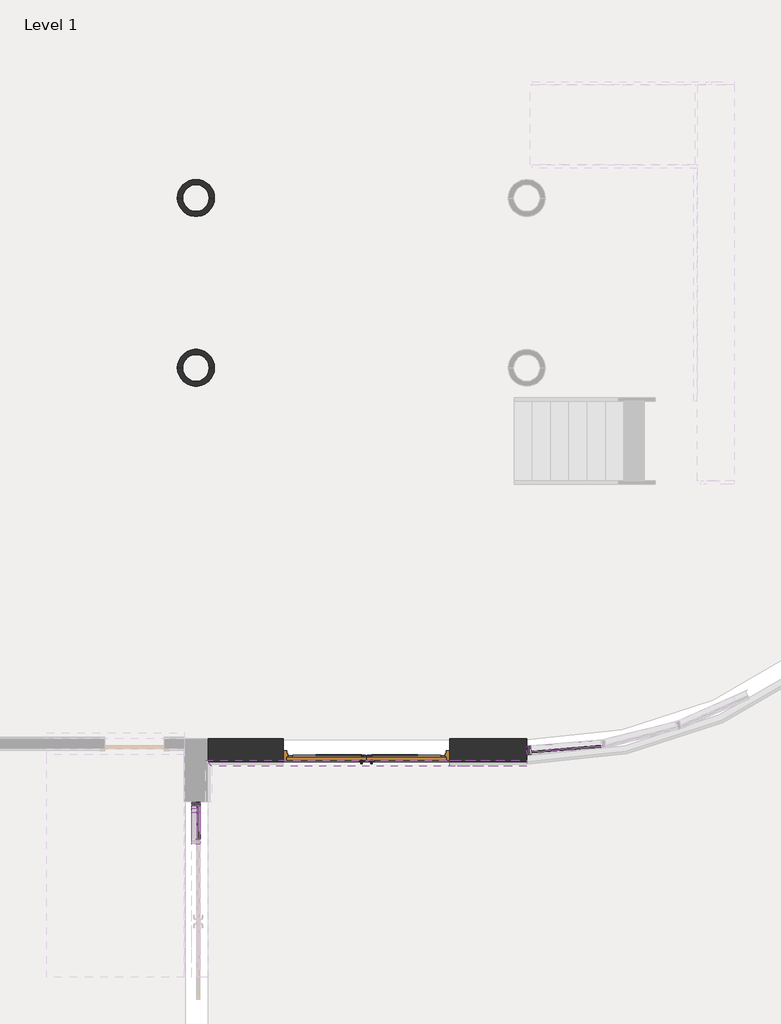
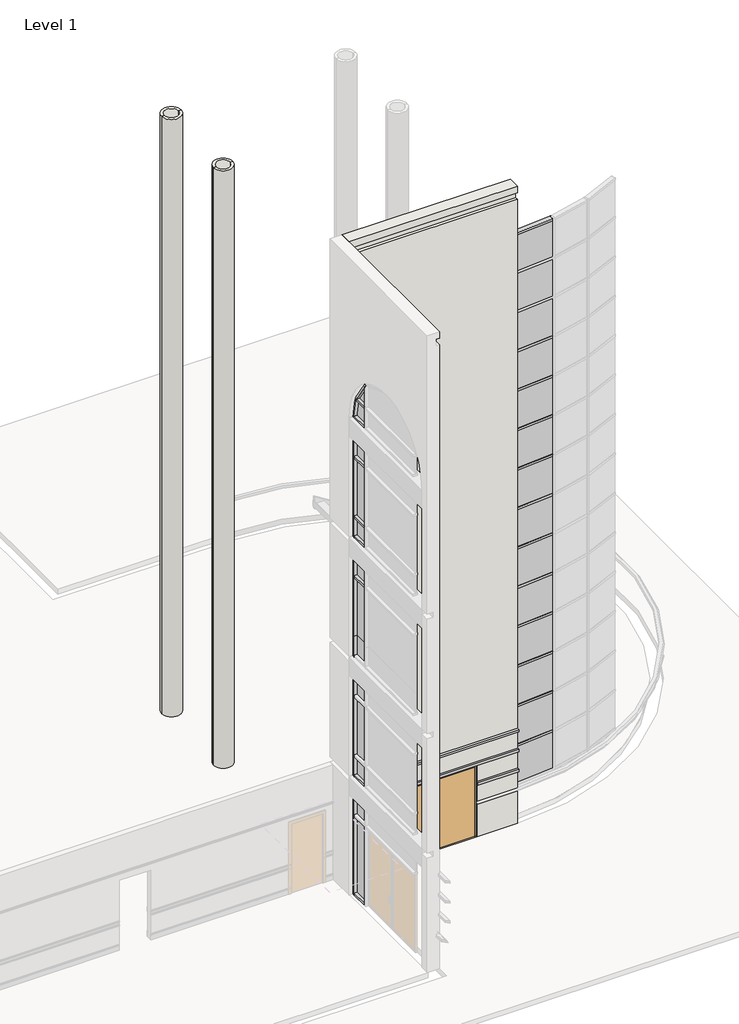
# One storey, part 4 of 20: 50 members, 27 plates, 5 walls, 3 proxies, 1 door.
"""IFC4 building model written with IfcOpenShell, lengths in millimetres."""

from ifc_helpers import new_model, si_unit, point, frame, frame_2d, origin, origin_with_axes, place, context, project, spatial, polyline, circle_curve, trimmed, segment, composite_curve, outline, extrude, faceted_brep, transform, mapped, element, save
from components import door_381a2cf9, member_6fd4d727, member_2e3765b8, member_e2a7e38a, member_ee409385, member_47a645d3, member_53d1b195, member_b7f7ac7a, member_94fbf6e3, member_aaa03826, member_dad99500, member_2fae0574, member_0b7646a3, system_panel_glazed_e4675ec4, system_panel_glazed_b699a21d, system_panel_glazed_302a988a, system_panel_glazed_4c725cf6, system_panel_glazed_f9269b4e, system_panel_glazed_1e7caf01, system_panel_glazed_6cb61a0e, system_panel_glazed_2dcc93e6, system_panel_glazed_8fb97314

model = new_model("IFC4")

# Units and contexts
model_context = context("Model", 3, world=origin())
ifc_project = project(units=[si_unit("LENGTHUNIT", "METRE", prefix="MILLI")], contexts=[model_context])

# Site, building, storey
site = spatial("IfcSite", under=ifc_project)
building = spatial("IfcBuilding", under=site)
storey = spatial("IfcBuildingStorey", under=building, Name="Level 1", Elevation=0.0)

# Proxies
placement = place(None, origin())
element("IfcBuildingElementProxy", 1, Name="Reveals", at=placement, inside=storey, context=model_context, shape_type="SweptSolid", body=[
    extrude(outline(polyline([(13127.8089721, -9887.6851681), (13035.7339721, -9795.6101681), (14220.0089721, -9795.6101681), (14220.0089721, -9887.6851681), (13127.8089721, -9887.6851681)])), frame((0.0, 0.0, 1625.6), z_axis=(0.0, 0.0, 1.0), x_axis=(1.0, 0.0, 0.0)), (0.0, 0.0, 1.0), 67.7333333),
    extrude(outline(polyline([(16760.0089721, -9887.6851681), (16760.0089721, -9795.6101681), (17937.9339721, -9795.6101681), (17937.9339721, -9887.6851681), (16760.0089721, -9887.6851681)])), frame((0.0, 0.0, 1625.6), z_axis=(0.0, 0.0, 1.0), x_axis=(1.0, 0.0, 0.0)), (0.0, 0.0, 1.0), 67.7333333),
])
element("IfcBuildingElementProxy", 2, Name="Reveals", at=placement, inside=storey, context=model_context, shape_type="SweptSolid", body=[
    extrude(outline(polyline([(13127.8089721, -9887.6851681), (13035.7339721, -9795.6101681), (17937.9339721, -9795.6101681), (17937.9339721, -9887.6851681), (13127.8089721, -9887.6851681)])), frame((0.0, 0.0, 2235.2), z_axis=(0.0, 0.0, 1.0), x_axis=(1.0, 0.0, 0.0)), (0.0, 0.0, 1.0), 67.7333333),
])
element("IfcBuildingElementProxy", 3, Name="Reveals", at=placement, inside=storey, context=model_context, shape_type="SweptSolid", body=[
    extrude(outline(polyline([(13127.8089721, -9887.6851681), (13035.7339721, -9795.6101681), (17937.9339721, -9795.6101681), (17937.9339721, -9887.6851681), (13127.8089721, -9887.6851681)])), frame((0.0, 0.0, 2844.8), z_axis=(0.0, 0.0, 1.0), x_axis=(1.0, 0.0, 0.0)), (0.0, 0.0, 1.0), 67.7333333),
])

# Door
door_shape = door_381a2cf9(model_context)
element("IfcDoor", 4, ObjectType="Door-Exterior-Double : 96\" x 84\"", at=placement, inside=storey, context=model_context, shape_type="MappedRepresentation", body=[
    mapped(door_shape, transform((15490.0089721, -9638.4476681, 0.0), x_axis=(1.0, 0.0, 0.0), y_axis=(0.0, 1.0, 0.0), z_axis=(0.0, 0.0, 1.0))),
])

# Members
member_shape = member_6fd4d727(model_context)
element("IfcMember", 5, ObjectType="Rectangular Mullion : 2.5\" x 5\" rectangular", at=placement, inside=storey, context=model_context, shape_type="MappedRepresentation", body=[
    mapped(member_shape, transform((18001.2170874, -9639.5538796, 17983.2), x_axis=(0.0, 0.0, 1.0), y_axis=(-0.08257934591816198, 0.9965844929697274, 0.0), z_axis=(-0.9965844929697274, -0.08257934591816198, 0.0))),
])
member_2_shape = member_2e3765b8(model_context)
element("IfcMember", 6, ObjectType="Rectangular Mullion : 2.5\" x 5\" rectangular", at=placement, inside=storey, context=model_context, shape_type="MappedRepresentation", body=[
    mapped(member_2_shape, transform((18001.2170874, -9639.5538796, 2298.7), x_axis=(0.0, 0.0, 1.0), y_axis=(-0.08257934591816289, 0.9965844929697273, 0.0), z_axis=(-0.9965844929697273, -0.08257934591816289, 0.0))),
])
element("IfcMember", 7, ObjectType="Rectangular Mullion : 2.5\" x 5\" rectangular", at=placement, inside=storey, context=model_context, shape_type="MappedRepresentation", body=[
    mapped(member_2_shape, transform((18001.2170874, -9639.5538796, 3505.2), x_axis=(0.0, 0.0, 1.0), y_axis=(-0.08257934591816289, 0.9965844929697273, 0.0), z_axis=(-0.9965844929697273, -0.08257934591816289, 0.0))),
])
element("IfcMember", 8, ObjectType="Rectangular Mullion : 2.5\" x 5\" rectangular", at=placement, inside=storey, context=model_context, shape_type="MappedRepresentation", body=[
    mapped(member_2_shape, transform((18001.2170874, -9639.5538796, 4711.7), x_axis=(0.0, 0.0, 1.0), y_axis=(-0.08257934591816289, 0.9965844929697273, 0.0), z_axis=(-0.9965844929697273, -0.08257934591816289, 0.0))),
])
element("IfcMember", 9, ObjectType="Rectangular Mullion : 2.5\" x 5\" rectangular", at=placement, inside=storey, context=model_context, shape_type="MappedRepresentation", body=[
    mapped(member_2_shape, transform((18001.2170874, -9639.5538796, 5918.2), x_axis=(0.0, 0.0, 1.0), y_axis=(-0.08257934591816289, 0.9965844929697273, 0.0), z_axis=(-0.9965844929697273, -0.08257934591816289, 0.0))),
])
element("IfcMember", 10, ObjectType="Rectangular Mullion : 2.5\" x 5\" rectangular", at=placement, inside=storey, context=model_context, shape_type="MappedRepresentation", body=[
    mapped(member_2_shape, transform((18001.2170874, -9639.5538796, 7124.7), x_axis=(0.0, 0.0, 1.0), y_axis=(-0.08257934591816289, 0.9965844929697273, 0.0), z_axis=(-0.9965844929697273, -0.08257934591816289, 0.0))),
])
element("IfcMember", 11, ObjectType="Rectangular Mullion : 2.5\" x 5\" rectangular", at=placement, inside=storey, context=model_context, shape_type="MappedRepresentation", body=[
    mapped(member_2_shape, transform((18001.2170874, -9639.5538796, 8331.2), x_axis=(0.0, 0.0, 1.0), y_axis=(-0.08257934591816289, 0.9965844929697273, 0.0), z_axis=(-0.9965844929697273, -0.08257934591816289, 0.0))),
])
element("IfcMember", 12, ObjectType="Rectangular Mullion : 2.5\" x 5\" rectangular", at=placement, inside=storey, context=model_context, shape_type="MappedRepresentation", body=[
    mapped(member_2_shape, transform((18001.2170874, -9639.5538796, 9537.7), x_axis=(0.0, 0.0, 1.0), y_axis=(-0.08257934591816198, 0.9965844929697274, 0.0), z_axis=(-0.9965844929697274, -0.08257934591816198, 0.0))),
])
element("IfcMember", 13, ObjectType="Rectangular Mullion : 2.5\" x 5\" rectangular", at=placement, inside=storey, context=model_context, shape_type="MappedRepresentation", body=[
    mapped(member_2_shape, transform((18001.2170874, -9639.5538796, 10744.2), x_axis=(0.0, 0.0, 1.0), y_axis=(-0.08257934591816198, 0.9965844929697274, 0.0), z_axis=(-0.9965844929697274, -0.08257934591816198, 0.0))),
])
element("IfcMember", 14, ObjectType="Rectangular Mullion : 2.5\" x 5\" rectangular", at=placement, inside=storey, context=model_context, shape_type="MappedRepresentation", body=[
    mapped(member_2_shape, transform((18001.2170874, -9639.5538796, 11950.7), x_axis=(0.0, 0.0, 1.0), y_axis=(-0.08257934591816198, 0.9965844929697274, 0.0), z_axis=(-0.9965844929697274, -0.08257934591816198, 0.0))),
])
element("IfcMember", 15, ObjectType="Rectangular Mullion : 2.5\" x 5\" rectangular", at=placement, inside=storey, context=model_context, shape_type="MappedRepresentation", body=[
    mapped(member_2_shape, transform((18001.2170874, -9639.5538796, 13157.2), x_axis=(0.0, 0.0, 1.0), y_axis=(-0.08257934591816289, 0.9965844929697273, 0.0), z_axis=(-0.9965844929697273, -0.08257934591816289, 0.0))),
])
element("IfcMember", 16, ObjectType="Rectangular Mullion : 2.5\" x 5\" rectangular", at=placement, inside=storey, context=model_context, shape_type="MappedRepresentation", body=[
    mapped(member_2_shape, transform((18001.2170874, -9639.5538796, 14363.7), x_axis=(0.0, 0.0, 1.0), y_axis=(-0.08257934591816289, 0.9965844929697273, 0.0), z_axis=(-0.9965844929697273, -0.08257934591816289, 0.0))),
])
member_3_shape = member_e2a7e38a(model_context)
element("IfcMember", 17, ObjectType="Rectangular Mullion : 2.5\" x 5\" rectangular", at=placement, inside=storey, context=model_context, shape_type="MappedRepresentation", body=[
    mapped(member_3_shape, transform((17937.9339721, -9644.7976681, 1092.2), x_axis=(-0.9965844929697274, -0.08257934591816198, 0.0), y_axis=(-0.08257934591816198, 0.9965844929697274, 0.0), z_axis=(0.0, 0.0, -1.0))),
])
element("IfcMember", 18, ObjectType="Rectangular Mullion : 2.5\" x 5\" rectangular", at=placement, inside=storey, context=model_context, shape_type="MappedRepresentation", body=[
    mapped(member_3_shape, transform((17937.9339721, -9644.7976681, 2298.7), x_axis=(-0.9965844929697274, -0.08257934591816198, 0.0), y_axis=(-0.08257934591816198, 0.9965844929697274, 0.0), z_axis=(0.0, 0.0, -1.0))),
])
element("IfcMember", 19, ObjectType="Rectangular Mullion : 2.5\" x 5\" rectangular", at=placement, inside=storey, context=model_context, shape_type="MappedRepresentation", body=[
    mapped(member_3_shape, transform((17937.9339721, -9644.7976681, 3505.2), x_axis=(-0.9965844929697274, -0.08257934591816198, 0.0), y_axis=(-0.08257934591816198, 0.9965844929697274, 0.0), z_axis=(0.0, 0.0, -1.0))),
])
element("IfcMember", 20, ObjectType="Rectangular Mullion : 2.5\" x 5\" rectangular", at=placement, inside=storey, context=model_context, shape_type="MappedRepresentation", body=[
    mapped(member_3_shape, transform((17937.9339721, -9644.7976681, 4711.7), x_axis=(-0.9965844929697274, -0.08257934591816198, 0.0), y_axis=(-0.08257934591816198, 0.9965844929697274, 0.0), z_axis=(0.0, 0.0, -1.0))),
])
element("IfcMember", 21, ObjectType="Rectangular Mullion : 2.5\" x 5\" rectangular", at=placement, inside=storey, context=model_context, shape_type="MappedRepresentation", body=[
    mapped(member_3_shape, transform((17937.9339721, -9644.7976681, 5918.2), x_axis=(-0.9965844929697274, -0.08257934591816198, 0.0), y_axis=(-0.08257934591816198, 0.9965844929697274, 0.0), z_axis=(0.0, 0.0, -1.0))),
])
element("IfcMember", 22, ObjectType="Rectangular Mullion : 2.5\" x 5\" rectangular", at=placement, inside=storey, context=model_context, shape_type="MappedRepresentation", body=[
    mapped(member_3_shape, transform((17937.9339721, -9644.7976681, 7124.7), x_axis=(-0.9965844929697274, -0.08257934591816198, 0.0), y_axis=(-0.08257934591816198, 0.9965844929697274, 0.0), z_axis=(0.0, 0.0, -1.0))),
])
element("IfcMember", 23, ObjectType="Rectangular Mullion : 2.5\" x 5\" rectangular", at=placement, inside=storey, context=model_context, shape_type="MappedRepresentation", body=[
    mapped(member_3_shape, transform((17937.9339721, -9644.7976681, 8331.2), x_axis=(-0.9965844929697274, -0.08257934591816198, 0.0), y_axis=(-0.08257934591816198, 0.9965844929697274, 0.0), z_axis=(0.0, 0.0, -1.0))),
])
element("IfcMember", 24, ObjectType="Rectangular Mullion : 2.5\" x 5\" rectangular", at=placement, inside=storey, context=model_context, shape_type="MappedRepresentation", body=[
    mapped(member_3_shape, transform((17937.9339721, -9644.7976681, 9537.7), x_axis=(-0.9965844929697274, -0.08257934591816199, 0.0), y_axis=(-0.08257934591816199, 0.9965844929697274, 0.0), z_axis=(0.0, 0.0, -1.0))),
])
element("IfcMember", 25, ObjectType="Rectangular Mullion : 2.5\" x 5\" rectangular", at=placement, inside=storey, context=model_context, shape_type="MappedRepresentation", body=[
    mapped(member_3_shape, transform((17937.9339721, -9644.7976681, 10744.2), x_axis=(-0.9965844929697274, -0.08257934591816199, 0.0), y_axis=(-0.08257934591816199, 0.9965844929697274, 0.0), z_axis=(0.0, 0.0, -1.0))),
])
element("IfcMember", 26, ObjectType="Rectangular Mullion : 2.5\" x 5\" rectangular", at=placement, inside=storey, context=model_context, shape_type="MappedRepresentation", body=[
    mapped(member_3_shape, transform((17937.9339721, -9644.7976681, 11950.7), x_axis=(-0.9965844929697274, -0.08257934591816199, 0.0), y_axis=(-0.08257934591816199, 0.9965844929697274, 0.0), z_axis=(0.0, 0.0, -1.0))),
])
element("IfcMember", 27, ObjectType="Rectangular Mullion : 2.5\" x 5\" rectangular", at=placement, inside=storey, context=model_context, shape_type="MappedRepresentation", body=[
    mapped(member_3_shape, transform((17937.9339721, -9644.7976681, 13157.2), x_axis=(-0.9965844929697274, -0.08257934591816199, 0.0), y_axis=(-0.08257934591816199, 0.9965844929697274, 0.0), z_axis=(0.0, 0.0, -1.0))),
])
element("IfcMember", 28, ObjectType="Rectangular Mullion : 2.5\" x 5\" rectangular", at=placement, inside=storey, context=model_context, shape_type="MappedRepresentation", body=[
    mapped(member_3_shape, transform((17937.9339721, -9644.7976681, 14363.7), x_axis=(-0.9965844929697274, -0.08257934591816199, 0.0), y_axis=(-0.08257934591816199, 0.9965844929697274, 0.0), z_axis=(0.0, 0.0, -1.0))),
])
element("IfcMember", 29, ObjectType="Rectangular Mullion : 2.5\" x 5\" rectangular", at=placement, inside=storey, context=model_context, shape_type="MappedRepresentation", body=[
    mapped(member_3_shape, transform((17937.9339721, -9644.7976681, 15570.2), x_axis=(-0.9965844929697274, -0.08257934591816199, 0.0), y_axis=(-0.08257934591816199, 0.9965844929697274, 0.0), z_axis=(0.0, 0.0, -1.0))),
])
element("IfcMember", 30, ObjectType="Rectangular Mullion : 2.5\" x 5\" rectangular", at=placement, inside=storey, context=model_context, shape_type="MappedRepresentation", body=[
    mapped(member_3_shape, transform((17937.9339721, -9644.7976681, 16776.7), x_axis=(-0.9965844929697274, -0.08257934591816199, 0.0), y_axis=(-0.08257934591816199, 0.9965844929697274, 0.0), z_axis=(0.0, 0.0, -1.0))),
])
member_4_shape = member_ee409385(model_context)
element("IfcMember", 31, ObjectType="Rectangular Mullion : 2.5\" x 5\" rectangular", at=placement, inside=storey, context=model_context, shape_type="MappedRepresentation", body=[
    mapped(member_4_shape, transform((12884.9214721, -10430.6101681, 2438.4), x_axis=(0.0, 1.0, 0.0), y_axis=(-1.0, 0.0, 0.0), z_axis=(0.0, 0.0, 1.0))),
])
member_5_shape = member_47a645d3(model_context)
element("IfcMember", 32, ObjectType="Rectangular Mullion : 2.5\" x 5\" rectangular", at=placement, inside=storey, context=model_context, shape_type="MappedRepresentation", body=[
    mapped(member_5_shape, transform((12884.9214721, -11008.4601681, 14630.4), x_axis=(0.0, 0.0, 1.0), y_axis=(-1.0, 0.0, 0.0), z_axis=(0.0, -1.0, 0.0))),
])
member_6_shape = member_53d1b195(model_context)
element("IfcMember", 33, ObjectType="Rectangular Mullion : 2.5\" x 5\" rectangular", at=placement, inside=storey, context=model_context, shape_type="MappedRepresentation", body=[
    mapped(member_6_shape, transform((12884.9214721, -11008.4601681, 15240.0), x_axis=(0.0, 0.0, 1.0), y_axis=(-1.0, 0.0, 0.0), z_axis=(0.0, -1.0, 0.0))),
])
member_7_shape = member_b7f7ac7a(model_context)
element("IfcMember", 34, ObjectType="Rectangular Mullion : 2.5\" x 5\" rectangular", at=placement, inside=storey, context=model_context, shape_type="MappedRepresentation", body=[
    mapped(member_7_shape, transform((12884.9214721, -10535.2009928, 15240.0), x_axis=(0.0, 0.9428090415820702, 0.33333333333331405), y_axis=(-1.0, 0.0, 0.0), z_axis=(0.0, -0.333333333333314, 0.9428090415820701))),
])
member_8_shape = member_94fbf6e3(model_context)
element("IfcMember", 35, ObjectType="Rectangular Mullion : 2.5\" x 5\" rectangular", at=placement, inside=storey, context=model_context, shape_type="MappedRepresentation", body=[
    mapped(member_8_shape, transform((12884.9214721, -11040.2101681, 15993.5070391), x_axis=(0.0, 0.6666666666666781, 0.7453559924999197), y_axis=(-1.0, 0.0, 0.0), z_axis=(0.0, -0.7453559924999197, 0.6666666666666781))),
])
member_9_shape = member_aaa03826(model_context)
element("IfcMember", 36, ObjectType="Rectangular Mullion : 2.5\" x 5\" rectangular", at=placement, inside=storey, context=model_context, shape_type="MappedRepresentation", body=[
    mapped(member_9_shape, transform((12884.9214721, -11008.4601681, 3657.6), x_axis=(0.0, 0.0, 1.0), y_axis=(-1.0, 0.0, 0.0), z_axis=(0.0, -1.0, 0.0))),
])
element("IfcMember", 37, ObjectType="Rectangular Mullion : 2.5\" x 5\" rectangular", at=placement, inside=storey, context=model_context, shape_type="MappedRepresentation", body=[
    mapped(member_9_shape, transform((12884.9214721, -11008.4601681, 3048.0), x_axis=(0.0, 0.0, 1.0), y_axis=(-1.0, 0.0, 0.0), z_axis=(0.0, -1.0, 0.0))),
])
element("IfcMember", 38, ObjectType="Rectangular Mullion : 2.5\" x 5\" rectangular", at=placement, inside=storey, context=model_context, shape_type="MappedRepresentation", body=[
    mapped(member_9_shape, transform((12884.9214721, -11008.4601681, 9753.6), x_axis=(0.0, 0.0, 1.0), y_axis=(-1.0, 0.0, 0.0), z_axis=(0.0, -1.0, 0.0))),
])
element("IfcMember", 39, ObjectType="Rectangular Mullion : 2.5\" x 5\" rectangular", at=placement, inside=storey, context=model_context, shape_type="MappedRepresentation", body=[
    mapped(member_9_shape, transform((12884.9214721, -11008.4601681, 10363.2), x_axis=(0.0, 0.0, 1.0), y_axis=(-1.0, 0.0, 0.0), z_axis=(0.0, -1.0, 0.0))),
])
element("IfcMember", 40, ObjectType="Rectangular Mullion : 2.5\" x 5\" rectangular", at=placement, inside=storey, context=model_context, shape_type="MappedRepresentation", body=[
    mapped(member_9_shape, transform((12884.9214721, -11008.4601681, 10972.8), x_axis=(0.0, 0.0, 1.0), y_axis=(-1.0, 0.0, 0.0), z_axis=(0.0, -1.0, 0.0))),
])
element("IfcMember", 41, ObjectType="Rectangular Mullion : 2.5\" x 5\" rectangular", at=placement, inside=storey, context=model_context, shape_type="MappedRepresentation", body=[
    mapped(member_9_shape, transform((12884.9214721, -11008.4601681, 11582.4), x_axis=(0.0, 0.0, 1.0), y_axis=(-1.0, 0.0, 0.0), z_axis=(0.0, -1.0, 0.0))),
])
element("IfcMember", 42, ObjectType="Rectangular Mullion : 2.5\" x 5\" rectangular", at=placement, inside=storey, context=model_context, shape_type="MappedRepresentation", body=[
    mapped(member_9_shape, transform((12884.9214721, -11008.4601681, 13411.2), x_axis=(0.0, 0.0, 1.0), y_axis=(-1.0, 0.0, 0.0), z_axis=(0.0, -1.0, 0.0))),
])
element("IfcMember", 43, ObjectType="Rectangular Mullion : 2.5\" x 5\" rectangular", at=placement, inside=storey, context=model_context, shape_type="MappedRepresentation", body=[
    mapped(member_9_shape, transform((12884.9214721, -11008.4601681, 14020.8), x_axis=(0.0, 0.0, 1.0), y_axis=(-1.0, 0.0, 0.0), z_axis=(0.0, -1.0, 0.0))),
])
member_10_shape = member_dad99500(model_context)
element("IfcMember", 44, ObjectType="Rectangular Mullion : 2.5\" x 5\" rectangular", at=placement, inside=storey, context=model_context, shape_type="MappedRepresentation", body=[
    mapped(member_10_shape, transform((12884.9214721, -10430.6101681, 11582.4), x_axis=(0.0, 1.0, 0.0), y_axis=(-1.0, 0.0, 0.0), z_axis=(0.0, 0.0, 1.0))),
])
element("IfcMember", 45, ObjectType="Rectangular Mullion : 2.5\" x 5\" rectangular", at=placement, inside=storey, context=model_context, shape_type="MappedRepresentation", body=[
    mapped(member_10_shape, transform((12884.9214721, -10430.6101681, 4267.2), x_axis=(0.0, 1.0, 0.0), y_axis=(-1.0, 0.0, 0.0), z_axis=(0.0, 0.0, 1.0))),
])
member_11_shape = member_2fae0574(model_context)
element("IfcMember", 46, ObjectType="Rectangular Mullion : 2.5\" x 5\" rectangular", at=placement, inside=storey, context=model_context, shape_type="MappedRepresentation", body=[
    mapped(member_11_shape, transform((12884.9214721, -10430.6101681, 13411.2), x_axis=(0.0, 1.0, 0.0), y_axis=(-1.0, 0.0, 0.0), z_axis=(0.0, 0.0, 1.0))),
])
element("IfcMember", 47, ObjectType="Rectangular Mullion : 2.5\" x 5\" rectangular", at=placement, inside=storey, context=model_context, shape_type="MappedRepresentation", body=[
    mapped(member_11_shape, transform((12884.9214721, -10430.6101681, 6096.0), x_axis=(0.0, 1.0, 0.0), y_axis=(-1.0, 0.0, 0.0), z_axis=(0.0, 0.0, 1.0))),
])
element("IfcMember", 48, ObjectType="Rectangular Mullion : 2.5\" x 5\" rectangular", at=placement, inside=storey, context=model_context, shape_type="MappedRepresentation", body=[
    mapped(member_10_shape, transform((12884.9214721, -10430.6101681, 14052.55), x_axis=(0.0, 1.0, 0.0), y_axis=(-1.0, 0.0, 0.0), z_axis=(0.0, 0.0, 1.0))),
])
element("IfcMember", 49, ObjectType="Rectangular Mullion : 2.5\" x 5\" rectangular", at=placement, inside=storey, context=model_context, shape_type="MappedRepresentation", body=[
    mapped(member_10_shape, transform((12884.9214721, -10430.6101681, 10394.95), x_axis=(0.0, 1.0, 0.0), y_axis=(-1.0, 0.0, 0.0), z_axis=(0.0, 0.0, 1.0))),
])
element("IfcMember", 50, ObjectType="Rectangular Mullion : 2.5\" x 5\" rectangular", at=placement, inside=storey, context=model_context, shape_type="MappedRepresentation", body=[
    mapped(member_10_shape, transform((12884.9214721, -10430.6101681, 6737.35), x_axis=(0.0, 1.0, 0.0), y_axis=(-1.0, 0.0, 0.0), z_axis=(0.0, 0.0, 1.0))),
])
element("IfcMember", 51, ObjectType="Rectangular Mullion : 2.5\" x 5\" rectangular", at=placement, inside=storey, context=model_context, shape_type="MappedRepresentation", body=[
    mapped(member_10_shape, transform((12884.9214721, -10430.6101681, 3079.75), x_axis=(0.0, 1.0, 0.0), y_axis=(-1.0, 0.0, 0.0), z_axis=(0.0, 0.0, 1.0))),
])
element("IfcMember", 52, ObjectType="Rectangular Mullion : 2.5\" x 5\" rectangular", at=placement, inside=storey, context=model_context, shape_type="MappedRepresentation", body=[
    mapped(member_10_shape, transform((12884.9214721, -10430.6101681, 7924.8), x_axis=(0.0, 1.0, 0.0), y_axis=(-1.0, 0.0, 0.0), z_axis=(0.0, 0.0, 1.0))),
])
element("IfcMember", 53, ObjectType="Rectangular Mullion : 2.5\" x 5\" rectangular", at=placement, inside=storey, context=model_context, shape_type="MappedRepresentation", body=[
    mapped(member_11_shape, transform((12884.9214721, -10430.6101681, 9753.6), x_axis=(0.0, 1.0, 0.0), y_axis=(-1.0, 0.0, 0.0), z_axis=(0.0, 0.0, 1.0))),
])
member_12_shape = member_0b7646a3(model_context)
element("IfcMember", 54, ObjectType="Rectangular Mullion : 2.5\" x 5\" rectangular", at=placement, inside=storey, context=model_context, shape_type="MappedRepresentation", body=[
    mapped(member_12_shape, transform((12884.9214721, -10494.1101681, 0.0), x_axis=(0.0, 0.0, -1.0), y_axis=(-1.0, 0.0, 0.0), z_axis=(0.0, 1.0, 0.0))),
])

# Plates
system_panel_glazed_shape = system_panel_glazed_e4675ec4(model_context)
element("IfcPlate", 55, ObjectType="System Panel : Glazed", at=placement, inside=storey, context=model_context, shape_type="MappedRepresentation", body=[
    mapped(system_panel_glazed_shape, transform((18541.2741154, -9594.8034782, 1155.7), x_axis=(-0.9965844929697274, -0.08257934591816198, 0.0), y_axis=(0.08257934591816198, -0.9965844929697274, 0.0), z_axis=(0.0, 0.0, 1.0))),
])
element("IfcPlate", 56, ObjectType="System Panel : Glazed", at=placement, inside=storey, context=model_context, shape_type="MappedRepresentation", body=[
    mapped(system_panel_glazed_shape, transform((18541.2741154, -9594.8034782, 16808.45), x_axis=(-0.9965844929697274, -0.08257934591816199, 0.0), y_axis=(0.08257934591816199, -0.9965844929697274, 0.0), z_axis=(0.0, 0.0, 1.0))),
])
system_panel_glazed_2_shape = system_panel_glazed_b699a21d(model_context)
element("IfcPlate", 57, ObjectType="System Panel : Glazed", at=placement, inside=storey, context=model_context, shape_type="MappedRepresentation", body=[
    mapped(system_panel_glazed_2_shape, transform((18541.2741154, -9594.8034782, 2330.45), x_axis=(-0.9965844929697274, -0.08257934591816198, 0.0), y_axis=(0.08257934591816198, -0.9965844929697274, 0.0), z_axis=(0.0, 0.0, 1.0))),
])
element("IfcPlate", 58, ObjectType="System Panel : Glazed", at=placement, inside=storey, context=model_context, shape_type="MappedRepresentation", body=[
    mapped(system_panel_glazed_2_shape, transform((18541.2741154, -9594.8034782, 3536.95), x_axis=(-0.9965844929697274, -0.08257934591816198, 0.0), y_axis=(0.08257934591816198, -0.9965844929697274, 0.0), z_axis=(0.0, 0.0, 1.0))),
])
element("IfcPlate", 59, ObjectType="System Panel : Glazed", at=placement, inside=storey, context=model_context, shape_type="MappedRepresentation", body=[
    mapped(system_panel_glazed_2_shape, transform((18541.2741154, -9594.8034782, 4743.45), x_axis=(-0.9965844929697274, -0.08257934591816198, 0.0), y_axis=(0.08257934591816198, -0.9965844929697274, 0.0), z_axis=(0.0, 0.0, 1.0))),
])
element("IfcPlate", 60, ObjectType="System Panel : Glazed", at=placement, inside=storey, context=model_context, shape_type="MappedRepresentation", body=[
    mapped(system_panel_glazed_2_shape, transform((18541.2741154, -9594.8034782, 5949.95), x_axis=(-0.9965844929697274, -0.08257934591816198, 0.0), y_axis=(0.08257934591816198, -0.9965844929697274, 0.0), z_axis=(0.0, 0.0, 1.0))),
])
element("IfcPlate", 61, ObjectType="System Panel : Glazed", at=placement, inside=storey, context=model_context, shape_type="MappedRepresentation", body=[
    mapped(system_panel_glazed_2_shape, transform((18541.2741154, -9594.8034782, 7156.45), x_axis=(-0.9965844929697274, -0.08257934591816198, 0.0), y_axis=(0.08257934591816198, -0.9965844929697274, 0.0), z_axis=(0.0, 0.0, 1.0))),
])
element("IfcPlate", 62, ObjectType="System Panel : Glazed", at=placement, inside=storey, context=model_context, shape_type="MappedRepresentation", body=[
    mapped(system_panel_glazed_2_shape, transform((18541.2741154, -9594.8034782, 8362.95), x_axis=(-0.9965844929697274, -0.08257934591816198, 0.0), y_axis=(0.08257934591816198, -0.9965844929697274, 0.0), z_axis=(0.0, 0.0, 1.0))),
])
element("IfcPlate", 63, ObjectType="System Panel : Glazed", at=placement, inside=storey, context=model_context, shape_type="MappedRepresentation", body=[
    mapped(system_panel_glazed_2_shape, transform((18541.2741154, -9594.8034782, 9569.45), x_axis=(-0.9965844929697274, -0.08257934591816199, 0.0), y_axis=(0.08257934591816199, -0.9965844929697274, 0.0), z_axis=(0.0, 0.0, 1.0))),
])
element("IfcPlate", 64, ObjectType="System Panel : Glazed", at=placement, inside=storey, context=model_context, shape_type="MappedRepresentation", body=[
    mapped(system_panel_glazed_2_shape, transform((18541.2741154, -9594.8034782, 10775.95), x_axis=(-0.9965844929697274, -0.08257934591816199, 0.0), y_axis=(0.08257934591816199, -0.9965844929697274, 0.0), z_axis=(0.0, 0.0, 1.0))),
])
element("IfcPlate", 65, ObjectType="System Panel : Glazed", at=placement, inside=storey, context=model_context, shape_type="MappedRepresentation", body=[
    mapped(system_panel_glazed_2_shape, transform((18541.2741154, -9594.8034782, 11982.45), x_axis=(-0.9965844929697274, -0.08257934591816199, 0.0), y_axis=(0.08257934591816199, -0.9965844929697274, 0.0), z_axis=(0.0, 0.0, 1.0))),
])
element("IfcPlate", 66, ObjectType="System Panel : Glazed", at=placement, inside=storey, context=model_context, shape_type="MappedRepresentation", body=[
    mapped(system_panel_glazed_2_shape, transform((18541.2741154, -9594.8034782, 13188.95), x_axis=(-0.9965844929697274, -0.08257934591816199, 0.0), y_axis=(0.08257934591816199, -0.9965844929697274, 0.0), z_axis=(0.0, 0.0, 1.0))),
])
element("IfcPlate", 67, ObjectType="System Panel : Glazed", at=placement, inside=storey, context=model_context, shape_type="MappedRepresentation", body=[
    mapped(system_panel_glazed_2_shape, transform((18541.2741154, -9594.8034782, 14395.45), x_axis=(-0.9965844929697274, -0.08257934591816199, 0.0), y_axis=(0.08257934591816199, -0.9965844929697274, 0.0), z_axis=(0.0, 0.0, 1.0))),
])
element("IfcPlate", 68, ObjectType="System Panel : Glazed", at=placement, inside=storey, context=model_context, shape_type="MappedRepresentation", body=[
    mapped(system_panel_glazed_2_shape, transform((18541.2741154, -9594.8034782, 15601.95), x_axis=(-0.9965844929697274, -0.08257934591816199, 0.0), y_axis=(0.08257934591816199, -0.9965844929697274, 0.0), z_axis=(0.0, 0.0, 1.0))),
])
system_panel_glazed_3_shape = system_panel_glazed_302a988a(model_context)
element("IfcPlate", 69, ObjectType="System Panel : Glazed", at=placement, inside=storey, context=model_context, shape_type="MappedRepresentation", body=[
    mapped(system_panel_glazed_3_shape, transform((12884.9214721, -10751.4279404, 14662.15), x_axis=(0.0, -1.0, 0.0), y_axis=(1.0, 0.0, 0.0), z_axis=(0.0, 0.0, 1.0))),
])
system_panel_glazed_4_shape = system_panel_glazed_4c725cf6(model_context)
element("IfcPlate", 70, ObjectType="System Panel : Glazed", at=placement, inside=storey, context=model_context, shape_type="MappedRepresentation", body=[
    mapped(system_panel_glazed_4_shape, transform((12884.9214721, -10811.5979095, 15271.75), x_axis=(0.0, -1.0, 0.0), y_axis=(1.0, 0.0, 0.0), z_axis=(0.0, 0.0, 1.0))),
])
system_panel_glazed_5_shape = system_panel_glazed_f9269b4e(model_context)
element("IfcPlate", 71, ObjectType="System Panel : Glazed", at=placement, inside=storey, context=model_context, shape_type="MappedRepresentation", body=[
    mapped(system_panel_glazed_5_shape, transform((12884.9214721, -10751.2851681, 3689.35), x_axis=(0.0, -1.0, 0.0), y_axis=(1.0, 0.0, 0.0), z_axis=(0.0, 0.0, 1.0))),
])
element("IfcPlate", 72, ObjectType="System Panel : Glazed", at=placement, inside=storey, context=model_context, shape_type="MappedRepresentation", body=[
    mapped(system_panel_glazed_5_shape, transform((12884.9214721, -10751.2851681, 11004.55), x_axis=(0.0, -1.0, 0.0), y_axis=(1.0, 0.0, 0.0), z_axis=(0.0, 0.0, 1.0))),
])
element("IfcPlate", 73, ObjectType="System Panel : Glazed", at=placement, inside=storey, context=model_context, shape_type="MappedRepresentation", body=[
    mapped(system_panel_glazed_5_shape, transform((12884.9214721, -10751.2851681, 2470.15), x_axis=(0.0, -1.0, 0.0), y_axis=(1.0, 0.0, 0.0), z_axis=(0.0, 0.0, 1.0))),
])
element("IfcPlate", 74, ObjectType="System Panel : Glazed", at=placement, inside=storey, context=model_context, shape_type="MappedRepresentation", body=[
    mapped(system_panel_glazed_5_shape, transform((12884.9214721, -10751.2851681, 6127.75), x_axis=(0.0, -1.0, 0.0), y_axis=(1.0, 0.0, 0.0), z_axis=(0.0, 0.0, 1.0))),
])
element("IfcPlate", 75, ObjectType="System Panel : Glazed", at=placement, inside=storey, context=model_context, shape_type="MappedRepresentation", body=[
    mapped(system_panel_glazed_5_shape, transform((12884.9214721, -10751.2851681, 9785.35), x_axis=(0.0, -1.0, 0.0), y_axis=(1.0, 0.0, 0.0), z_axis=(0.0, 0.0, 1.0))),
])
element("IfcPlate", 76, ObjectType="System Panel : Glazed", at=placement, inside=storey, context=model_context, shape_type="MappedRepresentation", body=[
    mapped(system_panel_glazed_5_shape, transform((12884.9214721, -10751.2851681, 13442.95), x_axis=(0.0, -1.0, 0.0), y_axis=(1.0, 0.0, 0.0), z_axis=(0.0, 0.0, 1.0))),
])
system_panel_glazed_6_shape = system_panel_glazed_1e7caf01(model_context)
element("IfcPlate", 77, ObjectType="System Panel : Glazed", at=placement, inside=storey, context=model_context, shape_type="MappedRepresentation", body=[
    mapped(system_panel_glazed_6_shape, transform((12884.9214721, -10751.2851681, 4298.95), x_axis=(0.0, -1.0, 0.0), y_axis=(1.0, 0.0, 0.0), z_axis=(0.0, 0.0, 1.0))),
])
element("IfcPlate", 78, ObjectType="System Panel : Glazed", at=placement, inside=storey, context=model_context, shape_type="MappedRepresentation", body=[
    mapped(system_panel_glazed_6_shape, transform((12884.9214721, -10751.2851681, 11614.15), x_axis=(0.0, -1.0, 0.0), y_axis=(1.0, 0.0, 0.0), z_axis=(0.0, 0.0, 1.0))),
])
system_panel_glazed_7_shape = system_panel_glazed_6cb61a0e(model_context)
element("IfcPlate", 79, ObjectType="System Panel : Glazed", at=placement, inside=storey, context=model_context, shape_type="MappedRepresentation", body=[
    mapped(system_panel_glazed_7_shape, transform((12884.9214721, -10751.2851681, 7924.8), x_axis=(0.0, -1.0, 0.0), y_axis=(1.0, 0.0, 0.0), z_axis=(0.0, 0.0, 1.0))),
])
system_panel_glazed_8_shape = system_panel_glazed_2dcc93e6(model_context)
element("IfcPlate", 80, ObjectType="System Panel : Glazed", at=placement, inside=storey, context=model_context, shape_type="MappedRepresentation", body=[
    mapped(system_panel_glazed_8_shape, transform((12884.9214721, -10751.2851681, 7346.95), x_axis=(0.0, -1.0, 0.0), y_axis=(1.0, 0.0, 0.0), z_axis=(0.0, 0.0, 1.0))),
])
system_panel_glazed_9_shape = system_panel_glazed_8fb97314(model_context)
element("IfcPlate", 81, ObjectType="System Panel : Glazed", at=placement, inside=storey, context=model_context, shape_type="MappedRepresentation", body=[
    mapped(system_panel_glazed_9_shape, transform((12884.9214721, -10751.2851681, 63.5), x_axis=(0.0, -1.0, 0.0), y_axis=(1.0, 0.0, 0.0), z_axis=(0.0, 0.0, 1.0))),
])

# Walls
element("IfcWall", 82, ObjectType="Exterior - Brick and CMU on MTL. Stud", at=placement, inside=storey, context=model_context, shape_type="Brep", body=[
    faceted_brep([(17937.9339721, -9821.0101681, 19507.2), (13061.1339721, -9821.0101681, 19507.2), (13061.1339721, -9821.0101681, 19304.0), (17937.9339721, -9821.0101681, 19304.0), (13061.1339721, -9821.0101681, 2302.9333333), (17937.9339721, -9821.0101681, 2302.9333333), (17937.9339721, -9821.0101681, 2844.8), (13061.1339721, -9821.0101681, 2844.8), (14220.0089721, -9821.0101681, 2235.2), (13061.1339721, -9821.0101681, 2235.2), (13061.1339721, -9821.0101681, 1693.3333333), (14220.0089721, -9821.0101681, 1693.3333333), (13061.1339721, -9821.0101681, 2912.5333333), (17937.9339721, -9821.0101681, 2912.5333333), (17937.9339721, -9821.0101681, 17983.2), (17937.9339721, -9821.0101681, 19100.8), (13061.1339721, -9821.0101681, 19100.8), (16760.0089721, -9821.0101681, 0.0), (17937.9339721, -9821.0101681, 0.0), (17937.9339721, -9821.0101681, 1016.0), (16760.0089721, -9821.0101681, 1016.0), (13061.1339721, -9821.0101681, 0.0), (14220.0089721, -9821.0101681, 0.0), (14220.0089721, -9821.0101681, 1016.0), (13061.1339721, -9821.0101681, 1016.0), (16760.0089721, -9821.0101681, 2235.2), (16760.0089721, -9821.0101681, 1693.3333333), (17937.9339721, -9821.0101681, 1693.3333333), (17937.9339721, -9821.0101681, 2235.2), (17937.9339721, -9821.0101681, 1625.6), (16760.0089721, -9821.0101681, 1625.6), (16760.0089721, -9821.0101681, 1085.85), (17937.9339721, -9821.0101681, 1085.85), (17937.9339721, -9821.0101681, 1092.2), (14220.0089721, -9821.0101681, 1625.6), (13061.1339721, -9821.0101681, 1625.6), (13061.1339721, -9821.0101681, 1085.85), (14220.0089721, -9821.0101681, 1085.85), (13061.1339721, -9468.5851681, 19507.2), (17937.9339721, -9468.5851681, 19507.2), (17937.9339721, -9468.5851681, 17983.2), (17937.9339721, -9468.5851681, 10972.8), (13061.1339721, -9468.5851681, 10972.8), (17937.9339721, -9468.5851681, 0.0), (16760.0089721, -9468.5851681, 0.0), (16760.0089721, -9468.5851681, 2235.2), (14220.0089721, -9468.5851681, 2235.2), (14220.0089721, -9468.5851681, 0.0), (13061.1339721, -9468.5851681, 0.0), (13061.1339721, -9468.5851681, 3505.2), (17937.9339721, -9468.5851681, 3505.2), (17937.9339721, -9468.5851681, 1092.2), (17937.9339721, -9468.5851681, 3657.6), (13061.1339721, -9468.5851681, 3657.6), (13061.1339721, -9468.5851681, 7162.8), (17937.9339721, -9468.5851681, 7162.8), (17937.9339721, -9468.5851681, 7315.2), (13061.1339721, -9468.5851681, 7315.2), (13061.1339721, -9468.5851681, 10820.4), (17937.9339721, -9468.5851681, 10820.4), (17937.9339721, -9728.9351681, 19304.0), (17937.9339721, -9728.9351681, 19100.8), (17937.9339721, -9795.6101681, 2912.5333333), (17937.9339721, -9795.6101681, 2844.8), (17937.9339721, -9795.6101681, 2302.9333333), (17937.9339721, -9795.6101681, 2235.2), (17937.9339721, -9795.6101681, 1693.3333333), (17937.9339721, -9795.6101681, 1625.6), (17937.9339721, -9728.9351681, 1085.85), (17937.9339721, -9728.9351681, 1016.0), (17937.9339721, -9728.9351681, 0.0), (17937.9339721, -9633.6851681, 3505.2), (17937.9339721, -9633.6851681, 3657.6), (17937.9339721, -9633.6851681, 7162.8), (17937.9339721, -9633.6851681, 7315.2), (17937.9339721, -9633.6851681, 10820.4), (17937.9339721, -9633.6851681, 10972.8), (16760.0089721, -9728.9351681, 0.0), (13061.1339721, -9728.9351681, 0.0), (14220.0089721, -9728.9351681, 0.0), (14220.0089721, -9795.6101681, 1693.3333333), (13061.1339721, -9795.6101681, 1693.3333333), (13061.1339721, -9795.6101681, 1625.6), (14220.0089721, -9795.6101681, 1625.6), (13061.1339721, -9795.6101681, 2302.9333333), (13061.1339721, -9795.6101681, 2235.2), (14220.0089721, -9795.6101681, 2235.2), (16760.0089721, -9795.6101681, 2235.2), (13061.1339721, -9795.6101681, 2912.5333333), (13061.1339721, -9795.6101681, 2844.8), (14220.0089721, -9728.9351681, 1085.85), (13061.1339721, -9728.9351681, 1085.85), (13061.1339721, -9728.9351681, 1016.0), (14220.0089721, -9728.9351681, 1016.0), (13061.1339721, -9728.9351681, 19304.0), (13061.1339721, -9728.9351681, 19100.8), (16760.0089721, -9728.9351681, 1016.0), (16760.0089721, -9728.9351681, 1085.85), (16760.0089721, -9795.6101681, 1625.6), (16760.0089721, -9795.6101681, 1693.3333333), (13061.1339721, -9633.6851681, 10972.8), (13061.1339721, -9633.6851681, 10820.4), (13061.1339721, -9633.6851681, 7315.2), (13061.1339721, -9633.6851681, 7162.8), (13061.1339721, -9633.6851681, 3657.6), (13061.1339721, -9633.6851681, 3505.2)], [[[0, 1, 2, 3]], [[4, 5, 6, 7]], [[8, 9, 10, 11]], [[12, 13, 14, 15, 16]], [[17, 18, 19, 20]], [[21, 22, 23, 24]], [[25, 26, 27, 28]], [[29, 30, 31, 32, 33]], [[34, 35, 36, 37]], [[38, 39, 40, 41, 42]], [[43, 44, 45, 46, 47, 48, 49, 50, 51]], [[52, 53, 54, 55]], [[56, 57, 58, 59]], [[39, 0, 3, 60, 61, 15, 14, 13, 62, 63, 6, 5, 64, 65, 28, 27, 66, 67, 29, 33, 32, 68, 69, 19, 18, 70, 43, 51, 50, 71, 72, 52, 55, 73, 74, 56, 59, 75, 76, 41, 40]], [[1, 0, 39, 38]], [[43, 70, 77, 44]], [[78, 48, 47, 79]], [[80, 81, 82, 83]], [[65, 64, 84, 85, 86, 87]], [[63, 62, 88, 89]], [[90, 91, 92, 93]], [[61, 60, 94, 95]], [[64, 5, 4, 84]], [[28, 65, 87, 25]], [[9, 8, 86, 85]], [[62, 13, 12, 88]], [[6, 63, 89, 7]], [[15, 61, 95, 16]], [[60, 3, 2, 94]], [[70, 18, 17, 77]], [[21, 78, 79, 22]], [[45, 44, 77, 17, 20, 96, 97, 31, 30, 98, 99, 26, 25, 87]], [[46, 45, 87, 86]], [[47, 46, 86, 8, 11, 80, 83, 34, 37, 90, 93, 23, 22, 79]], [[66, 99, 98, 67]], [[67, 98, 30, 29]], [[99, 66, 27, 26]], [[83, 82, 35, 34]], [[81, 80, 11, 10]], [[68, 97, 96, 69]], [[69, 96, 20, 19]], [[97, 68, 32, 31]], [[93, 92, 24, 23]], [[91, 90, 37, 36]], [[1, 38, 42, 100, 101, 58, 57, 102, 103, 54, 53, 104, 105, 49, 48, 78, 21, 24, 92, 91, 36, 35, 82, 81, 10, 9, 85, 84, 4, 7, 89, 88, 12, 16, 95, 94, 2]], [[50, 49, 105, 71]], [[53, 52, 72, 104]], [[72, 71, 105, 104]], [[55, 54, 103, 73]], [[57, 56, 74, 102]], [[74, 73, 103, 102]], [[101, 75, 59, 58]], [[76, 100, 42, 41]], [[75, 101, 100, 76]]]),
])
element("IfcWall", 83, ObjectType="Interior - 3 1/8\" Partition (1-hr)", at=placement, inside=storey, context=model_context, shape_type="SweptSolid", body=[
    extrude(outline(composite_curve([segment(polyline([(12681.7214721, -1208.8226681), (12602.3464721, -1208.8226681)]), True, "CONTINUOUS"), segment(trimmed(circle_curve(frame_2d((12884.9214721, -1208.8226681)), 282.575), [point((12602.3464721, -1208.8226681))], [point((13167.4964721, -1208.8226681))], False, "CARTESIAN"), True, "CONTINUOUS"), segment(polyline([(13167.4964721, -1208.8226681), (13088.1214721, -1208.8226681)]), True, "CONTINUOUS"), segment(trimmed(circle_curve(frame_2d((12884.9214721, -1208.8226681)), 203.2), [point((13088.1214721, -1208.8226681))], [point((12681.7214721, -1208.8226681))], True, "CARTESIAN"), True, "CONTINUOUS")], self_intersect=False)), origin_with_axes(), (0.0, 0.0, 1.0), 18288.0),
])
element("IfcWall", 84, ObjectType="Interior - 3 1/8\" Partition (1-hr)", at=placement, inside=storey, context=model_context, shape_type="SweptSolid", body=[
    extrude(outline(composite_curve([segment(polyline([(13088.1214721, -1208.8226681), (13167.4964721, -1208.8226681)]), True, "CONTINUOUS"), segment(trimmed(circle_curve(frame_2d((12884.9214721, -1208.8226681)), 282.575), [point((13167.4964721, -1208.8226681))], [point((12602.3464721, -1208.8226681))], False, "CARTESIAN"), True, "CONTINUOUS"), segment(polyline([(12602.3464721, -1208.8226681), (12681.7214721, -1208.8226681)]), True, "CONTINUOUS"), segment(trimmed(circle_curve(frame_2d((12884.9214721, -1208.8226681)), 203.2), [point((12681.7214721, -1208.8226681))], [point((13088.1214721, -1208.8226681))], True, "CARTESIAN"), True, "CONTINUOUS")], self_intersect=False)), origin_with_axes(), (0.0, 0.0, 1.0), 18288.0),
])
element("IfcWall", 85, ObjectType="Interior - 3 1/8\" Partition (1-hr)", at=placement, inside=storey, context=model_context, shape_type="SweptSolid", body=[
    extrude(outline(composite_curve([segment(polyline([(12681.7214721, -3802.7976681), (12602.3464721, -3802.7976681)]), True, "CONTINUOUS"), segment(trimmed(circle_curve(frame_2d((12884.9214721, -3802.7976681)), 282.575), [point((12602.3464721, -3802.7976681))], [point((13167.4964721, -3802.7976681))], False, "CARTESIAN"), True, "CONTINUOUS"), segment(polyline([(13167.4964721, -3802.7976681), (13088.1214721, -3802.7976681)]), True, "CONTINUOUS"), segment(trimmed(circle_curve(frame_2d((12884.9214721, -3802.7976681)), 203.2), [point((13088.1214721, -3802.7976681))], [point((12681.7214721, -3802.7976681))], True, "CARTESIAN"), True, "CONTINUOUS")], self_intersect=False)), origin_with_axes(), (0.0, 0.0, 1.0), 18288.0),
])
element("IfcWall", 86, ObjectType="Interior - 3 1/8\" Partition (1-hr)", at=placement, inside=storey, context=model_context, shape_type="SweptSolid", body=[
    extrude(outline(composite_curve([segment(polyline([(13088.1214721, -3802.7976681), (13167.4964721, -3802.7976681)]), True, "CONTINUOUS"), segment(trimmed(circle_curve(frame_2d((12884.9214721, -3802.7976681)), 282.575), [point((13167.4964721, -3802.7976681))], [point((12602.3464721, -3802.7976681))], False, "CARTESIAN"), True, "CONTINUOUS"), segment(polyline([(12602.3464721, -3802.7976681), (12681.7214721, -3802.7976681)]), True, "CONTINUOUS"), segment(trimmed(circle_curve(frame_2d((12884.9214721, -3802.7976681)), 203.2), [point((12681.7214721, -3802.7976681))], [point((13088.1214721, -3802.7976681))], True, "CARTESIAN"), True, "CONTINUOUS")], self_intersect=False)), origin_with_axes(), (0.0, 0.0, 1.0), 18288.0),
])

save(model, "model.ifc")
